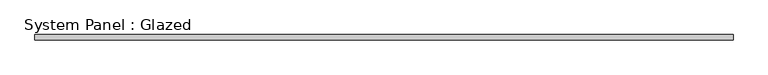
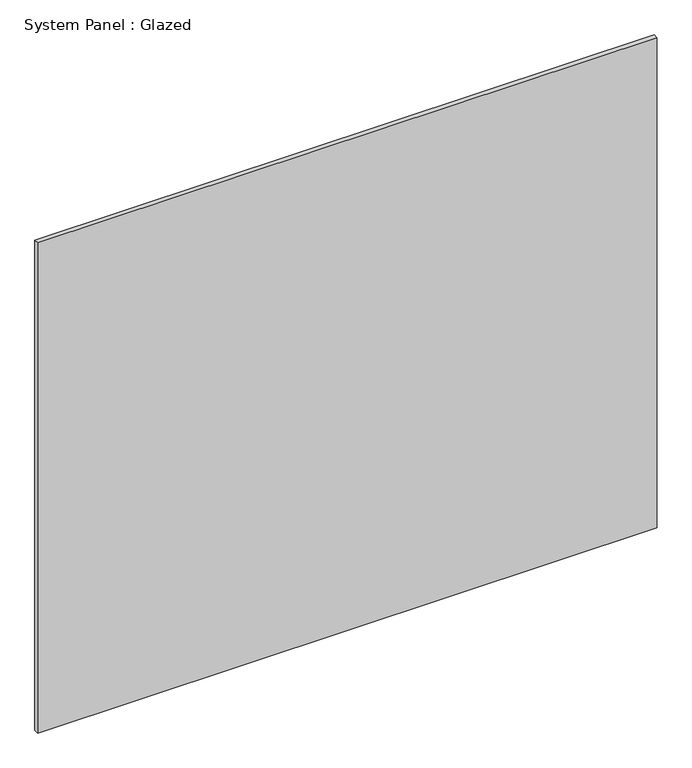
"""IFC4 building model written with IfcOpenShell, lengths in millimetres: plate geometry, System Panel : Glazed."""

from ifc_helpers import new_model, si_unit, origin, origin_with_axes, place, context, project, spatial, polyline, outline, extrude, source, transform, mapped, element, save


def system_panel_glazed_dc0bbc31(model_context):
    return source(origin(), model_context, "Body", "SweptSolid", [
        extrude(outline(polyline([(1643.75, -49.5), (-1643.75, -49.5), (-1643.75, -24.5), (1643.75, -24.5), (1643.75, -49.5)])), origin_with_axes(), (0.0, 0.0, 1.0), 2750.0),
    ])


if __name__ == "__main__":
    model = new_model("IFC4")
    model_context = context("Model", 3, world=origin())
    ifc_project = project(units=[si_unit("LENGTHUNIT", "METRE", prefix="MILLI")], contexts=[model_context])
    site = spatial("IfcSite", under=ifc_project)
    building = spatial("IfcBuilding", under=site)
    placement = place(None, origin())
    system_panel_glazed_shape = system_panel_glazed_dc0bbc31(model_context)
    element("IfcPlate", 1, ObjectType="System Panel : Glazed", at=placement, inside=building, context=model_context, shape_type="MappedRepresentation", body=[
        mapped(system_panel_glazed_shape, transform((0.0, 0.0, 0.0), x_axis=(1.0, 0.0, 0.0), y_axis=(0.0, 1.0, 0.0), z_axis=(0.0, 0.0, 1.0))),
    ])
    save(model, "model.ifc")
